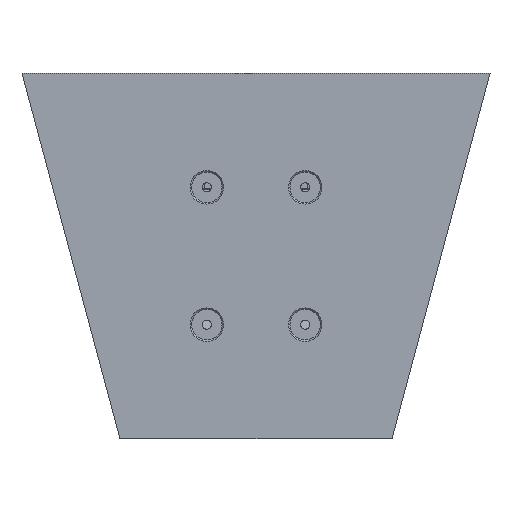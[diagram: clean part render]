
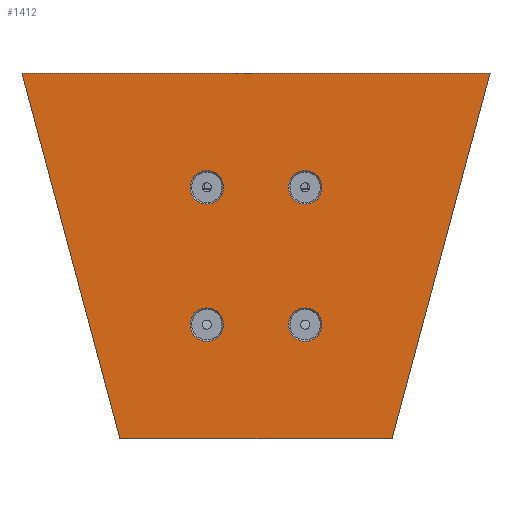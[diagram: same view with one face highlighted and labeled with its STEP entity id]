
A CAD part, front view. The second image highlights one B-rep face of the part: STEP entity #1412.
In plain terms, the highlighted planar face has unit normal (0, -1, 0).
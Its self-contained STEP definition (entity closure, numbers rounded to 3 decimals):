
#1161 = EDGE_CURVE ( 'NONE', #1162, #1240, #8732, .T. ) ;
#1162 = VERTEX_POINT ( 'NONE', #8724 ) ;
#1182 = VERTEX_POINT ( 'NONE', #8747 ) ;
#1184 = EDGE_CURVE ( 'NONE', #1185, #1182, #8744, .T. ) ;
#1185 = VERTEX_POINT ( 'NONE', #8807 ) ;
#1199 = EDGE_CURVE ( 'NONE', #1235, #1233, #8792, .T. ) ;
#1210 = VERTEX_POINT ( 'NONE', #8828 ) ;
#1212 = EDGE_CURVE ( 'NONE', #1213, #1210, #8827, .T. ) ;
#1213 = VERTEX_POINT ( 'NONE', #8822 ) ;
#1233 = VERTEX_POINT ( 'NONE', #8852 ) ;
#1235 = VERTEX_POINT ( 'NONE', #8851 ) ;
#1240 = VERTEX_POINT ( 'NONE', #8844 ) ;
#1362 = EDGE_CURVE ( 'NONE', #1436, #1426, #9124, .T. ) ;
#1394 = VERTEX_POINT ( 'NONE', #9139 ) ;
#1404 = EDGE_LOOP ( 'NONE', ( #1405, #1406 ) ) ;
#1405 = ORIENTED_EDGE ( 'NONE', *, *, #1161, .T. ) ;
#1406 = ORIENTED_EDGE ( 'NONE', *, *, #1407, .T. ) ;
#1407 = EDGE_CURVE ( 'NONE', #1240, #1162, #9188, .T. ) ;
#1408 = EDGE_LOOP ( 'NONE', ( #1470, #1471, #1472, #1473 ) ) ;
#1410 = EDGE_CURVE ( 'NONE', #1182, #1185, #9184, .T. ) ;
#1411 = EDGE_LOOP ( 'NONE', ( #1466, #1467 ) ) ;
#1412 = ADVANCED_FACE ( 'NONE', ( #9179, #9178, #9177, #9176, #9175 ), #9174, .F. ) ;
#1413 = ORIENTED_EDGE ( 'NONE', *, *, #1184, .T. ) ;
#1414 = ORIENTED_EDGE ( 'NONE', *, *, #1410, .T. ) ;
#1419 = EDGE_CURVE ( 'NONE', #1433, #1394, #9233, .T. ) ;
#1420 = EDGE_LOOP ( 'NONE', ( #1413, #1414 ) ) ;
#1426 = VERTEX_POINT ( 'NONE', #9219 ) ;
#1429 = EDGE_CURVE ( 'NONE', #1426, #1433, #9218, .T. ) ;
#1433 = VERTEX_POINT ( 'NONE', #9204 ) ;
#1436 = VERTEX_POINT ( 'NONE', #9267 ) ;
#1439 = EDGE_CURVE ( 'NONE', #1394, #1436, #9266, .T. ) ;
#1466 = ORIENTED_EDGE ( 'NONE', *, *, #1212, .T. ) ;
#1467 = ORIENTED_EDGE ( 'NONE', *, *, #1468, .T. ) ;
#1468 = EDGE_CURVE ( 'NONE', #1210, #1213, #9286, .T. ) ;
#1469 = EDGE_LOOP ( 'NONE', ( #1479, #1480 ) ) ;
#1470 = ORIENTED_EDGE ( 'NONE', *, *, #1439, .T. ) ;
#1471 = ORIENTED_EDGE ( 'NONE', *, *, #1362, .T. ) ;
#1472 = ORIENTED_EDGE ( 'NONE', *, *, #1429, .T. ) ;
#1473 = ORIENTED_EDGE ( 'NONE', *, *, #1419, .T. ) ;
#1479 = ORIENTED_EDGE ( 'NONE', *, *, #1199, .T. ) ;
#1480 = ORIENTED_EDGE ( 'NONE', *, *, #1481, .T. ) ;
#1481 = EDGE_CURVE ( 'NONE', #1233, #1235, #9349, .T. ) ;
#8724 = CARTESIAN_POINT ( 'NONE',  ( 301.053, -27., 4.519 ) ) ;
#8725 = DIRECTION ( 'NONE',  ( -1., 0., 0. ) ) ;
#8726 = DIRECTION ( 'NONE',  ( 0., 1., 0. ) ) ;
#8727 = CARTESIAN_POINT ( 'NONE',  ( 279.053, -27., 4.519 ) ) ;
#8728 = AXIS2_PLACEMENT_3D ( 'NONE', #8727, #8726, #8725 ) ;
#8732 = CIRCLE ( 'NONE', #8728, 22. ) ;
#8740 = DIRECTION ( 'NONE',  ( 0., 1., 0. ) ) ;
#8741 = CARTESIAN_POINT ( 'NONE',  ( 279.053, -27., 184.519 ) ) ;
#8742 = AXIS2_PLACEMENT_3D ( 'NONE', #8741, #8740, #10868 ) ;
#8744 = CIRCLE ( 'NONE', #8742, 22. ) ;
#8747 = CARTESIAN_POINT ( 'NONE',  ( 257.053, -27., 184.519 ) ) ;
#8788 = DIRECTION ( 'NONE',  ( -1., 0., 0. ) ) ;
#8789 = DIRECTION ( 'NONE',  ( 0., 1., 0. ) ) ;
#8790 = CARTESIAN_POINT ( 'NONE',  ( 150.053, -27., 4.519 ) ) ;
#8791 = AXIS2_PLACEMENT_3D ( 'NONE', #8790, #8789, #8788 ) ;
#8792 = CIRCLE ( 'NONE', #8791, 22. ) ;
#8807 = CARTESIAN_POINT ( 'NONE',  ( 301.053, -27., 184.519 ) ) ;
#8822 = CARTESIAN_POINT ( 'NONE',  ( 172.053, -27., 184.519 ) ) ;
#8823 = DIRECTION ( 'NONE',  ( -1., 0., 0. ) ) ;
#8824 = DIRECTION ( 'NONE',  ( 0., 1., 0. ) ) ;
#8825 = CARTESIAN_POINT ( 'NONE',  ( 150.053, -27., 184.519 ) ) ;
#8826 = AXIS2_PLACEMENT_3D ( 'NONE', #8825, #8824, #8823 ) ;
#8827 = CIRCLE ( 'NONE', #8826, 22. ) ;
#8828 = CARTESIAN_POINT ( 'NONE',  ( 128.053, -27., 184.519 ) ) ;
#8844 = CARTESIAN_POINT ( 'NONE',  ( 257.053, -27., 4.519 ) ) ;
#8851 = CARTESIAN_POINT ( 'NONE',  ( 172.053, -27., 4.519 ) ) ;
#8852 = CARTESIAN_POINT ( 'NONE',  ( 128.053, -27., 4.519 ) ) ;
#9121 = DIRECTION ( 'NONE',  ( 0.259, 0., 0.966 ) ) ;
#9122 = VECTOR ( 'NONE', #9121, 1000. ) ;
#9123 = CARTESIAN_POINT ( 'NONE',  ( 521.278, -27., 334.072 ) ) ;
#9124 = LINE ( 'NONE', #9123, #9122 ) ;
#9139 = CARTESIAN_POINT ( 'NONE',  ( 36.204, -27., -145.034 ) ) ;
#9170 = DIRECTION ( 'NONE',  ( -1., 0., 0. ) ) ;
#9171 = DIRECTION ( 'NONE',  ( 0., 1., 0. ) ) ;
#9172 = CARTESIAN_POINT ( 'NONE',  ( 36.204, -27., -145.034 ) ) ;
#9173 = AXIS2_PLACEMENT_3D ( 'NONE', #9172, #9171, #9170 ) ;
#9174 = PLANE ( 'NONE',  #9173 ) ;
#9175 = FACE_OUTER_BOUND ( 'NONE', #1408, .T. ) ;
#9176 = FACE_BOUND ( 'NONE', #1404, .T. ) ;
#9177 = FACE_BOUND ( 'NONE', #1469, .T. ) ;
#9178 = FACE_BOUND ( 'NONE', #1411, .T. ) ;
#9179 = FACE_BOUND ( 'NONE', #1420, .T. ) ;
#9180 = DIRECTION ( 'NONE',  ( -1., 0., 0. ) ) ;
#9181 = DIRECTION ( 'NONE',  ( 0., 1., 0. ) ) ;
#9182 = CARTESIAN_POINT ( 'NONE',  ( 279.053, -27., 184.519 ) ) ;
#9183 = AXIS2_PLACEMENT_3D ( 'NONE', #9182, #9181, #9180 ) ;
#9184 = CIRCLE ( 'NONE', #9183, 22. ) ;
#9185 = DIRECTION ( 'NONE',  ( -1., 0., 0. ) ) ;
#9186 = DIRECTION ( 'NONE',  ( 0., 1., 0. ) ) ;
#9187 = AXIS2_PLACEMENT_3D ( 'NONE', #9191, #9186, #9185 ) ;
#9188 = CIRCLE ( 'NONE', #9187, 22. ) ;
#9191 = CARTESIAN_POINT ( 'NONE',  ( 279.053, -27., 4.519 ) ) ;
#9204 = CARTESIAN_POINT ( 'NONE',  ( -92.172, -27., 334.072 ) ) ;
#9215 = DIRECTION ( 'NONE',  ( -1., 0., 0. ) ) ;
#9216 = VECTOR ( 'NONE', #9215, 1000. ) ;
#9217 = CARTESIAN_POINT ( 'NONE',  ( -92.172, -27., 334.072 ) ) ;
#9218 = LINE ( 'NONE', #9217, #9216 ) ;
#9219 = CARTESIAN_POINT ( 'NONE',  ( 521.278, -27., 334.072 ) ) ;
#9230 = DIRECTION ( 'NONE',  ( 0.259, 0., -0.966 ) ) ;
#9231 = VECTOR ( 'NONE', #9230, 1000. ) ;
#9232 = CARTESIAN_POINT ( 'NONE',  ( 36.204, -27., -145.034 ) ) ;
#9233 = LINE ( 'NONE', #9232, #9231 ) ;
#9263 = DIRECTION ( 'NONE',  ( 1., 0., 0. ) ) ;
#9264 = VECTOR ( 'NONE', #9263, 1000. ) ;
#9265 = CARTESIAN_POINT ( 'NONE',  ( 392.902, -27., -145.034 ) ) ;
#9266 = LINE ( 'NONE', #9265, #9264 ) ;
#9267 = CARTESIAN_POINT ( 'NONE',  ( 392.902, -27., -145.034 ) ) ;
#9282 = DIRECTION ( 'NONE',  ( -1., 0., 0. ) ) ;
#9283 = DIRECTION ( 'NONE',  ( 0., 1., 0. ) ) ;
#9284 = CARTESIAN_POINT ( 'NONE',  ( 150.053, -27., 184.519 ) ) ;
#9285 = AXIS2_PLACEMENT_3D ( 'NONE', #9284, #9283, #9282 ) ;
#9286 = CIRCLE ( 'NONE', #9285, 22. ) ;
#9345 = DIRECTION ( 'NONE',  ( -1., 0., 0. ) ) ;
#9346 = DIRECTION ( 'NONE',  ( 0., 1., 0. ) ) ;
#9347 = CARTESIAN_POINT ( 'NONE',  ( 150.053, -27., 4.519 ) ) ;
#9348 = AXIS2_PLACEMENT_3D ( 'NONE', #9347, #9346, #9345 ) ;
#9349 = CIRCLE ( 'NONE', #9348, 22. ) ;
#10868 = DIRECTION ( 'NONE',  ( -1., 0., 0. ) ) ;
